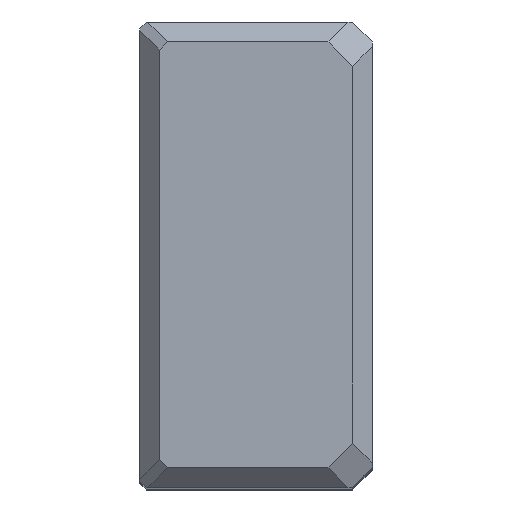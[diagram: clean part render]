
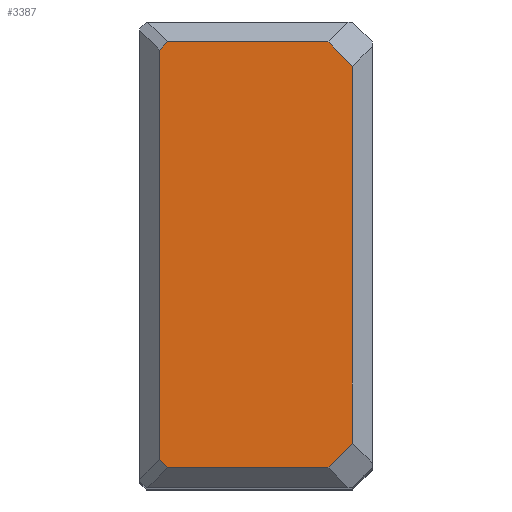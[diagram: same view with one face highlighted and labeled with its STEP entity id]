
A CAD part, top view. The second image highlights one B-rep face of the part: STEP entity #3387.
In plain terms, the highlighted planar face has unit normal (0, 0, 1).
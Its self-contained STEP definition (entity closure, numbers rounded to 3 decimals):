
#95=VERTEX_POINT(' ',#96);
#96=CARTESIAN_POINT('',(-3.,-28.326,0.));
#97=VERTEX_POINT(' ',#98);
#98=CARTESIAN_POINT('',(-6.674,-32.,0.));
#127=VERTEX_POINT(' ',#128);
#128=CARTESIAN_POINT('',(-3.,28.326,0.));
#135=VERTEX_POINT(' ',#136);
#136=CARTESIAN_POINT('',(-6.674,32.,0.));
#173=VERTEX_POINT(' ',#174);
#174=CARTESIAN_POINT('',(-30.775,-32.,0.));
#181=VERTEX_POINT(' ',#182);
#182=CARTESIAN_POINT('',(-32.,-30.775,0.));
#199=VERTEX_POINT(' ',#200);
#200=CARTESIAN_POINT('',(-32.,30.775,0.));
#203=VERTEX_POINT(' ',#204);
#204=CARTESIAN_POINT('',(-30.775,32.,0.));
#648=LINE('',#649,#650);
#649=CARTESIAN_POINT('',(12.663,-12.663,0.));
#650=VECTOR('',#651,1.);
#651=DIRECTION('',(0.707,0.707,0.));
#652=EDGE_CURVE(' ',#95,#97,#648,.F.);
#778=LINE('',#779,#780);
#779=CARTESIAN_POINT('',(-3.,-35.12,0.));
#780=VECTOR('',#781,1.);
#781=DIRECTION('',(0.,1.,0.));
#782=EDGE_CURVE(' ',#95,#127,#778,.T.);
#803=LINE('',#804,#805);
#804=CARTESIAN_POINT('',(12.663,12.663,0.));
#805=VECTOR('',#806,1.);
#806=DIRECTION('',(-0.707,0.707,0.));
#807=EDGE_CURVE(' ',#135,#127,#803,.F.);
#992=LINE('',#993,#994);
#993=CARTESIAN_POINT('',(-35.12,-32.,0.));
#994=VECTOR('',#995,1.);
#995=DIRECTION('',(1.,0.,0.));
#996=EDGE_CURVE(' ',#173,#97,#992,.T.);
#1007=LINE('',#1008,#1009);
#1008=CARTESIAN_POINT('',(-31.388,-31.388,0.));
#1009=VECTOR('',#1010,1.);
#1010=DIRECTION('',(0.707,-0.707,0.));
#1011=EDGE_CURVE(' ',#173,#181,#1007,.F.);
#1099=LINE('',#1100,#1101);
#1100=CARTESIAN_POINT('',(-32.,-35.12,0.));
#1101=VECTOR('',#1102,1.);
#1102=DIRECTION('',(0.,1.,0.));
#1103=EDGE_CURVE(' ',#181,#199,#1099,.T.);
#1104=LINE('',#1105,#1106);
#1105=CARTESIAN_POINT('',(-31.388,31.388,0.));
#1106=VECTOR('',#1107,1.);
#1107=DIRECTION('',(-0.707,-0.707,0.));
#1108=EDGE_CURVE(' ',#199,#203,#1104,.F.);
#1109=LINE('',#1110,#1111);
#1110=CARTESIAN_POINT('',(-35.12,32.,0.));
#1111=VECTOR('',#1112,1.);
#1112=DIRECTION('',(1.,0.,0.));
#1113=EDGE_CURVE(' ',#135,#203,#1109,.F.);
#3372=ORIENTED_EDGE('',*,*,#1108,.F.);
#3373=ORIENTED_EDGE('',*,*,#1103,.F.);
#3374=ORIENTED_EDGE('',*,*,#1011,.F.);
#3375=ORIENTED_EDGE('',*,*,#996,.T.);
#3376=ORIENTED_EDGE('',*,*,#652,.F.);
#3377=ORIENTED_EDGE('',*,*,#782,.T.);
#3378=ORIENTED_EDGE('',*,*,#807,.F.);
#3379=ORIENTED_EDGE('',*,*,#1113,.T.);
#3380=EDGE_LOOP('',(#3372,#3373,#3374,#3375,#3376,#3377,#3378,#3379));
#3381=FACE_OUTER_BOUND('',#3380,.T.);
#3382=PLANE('',#3383);
#3383=AXIS2_PLACEMENT_3D('',#3384,#3385,#3386);
#3384=CARTESIAN_POINT('',(-32.,0.,0.));
#3385=DIRECTION('',(0.,0.,1.));
#3386=DIRECTION('',(1.,0.,0.));
#3387=ADVANCED_FACE('',(#3381),#3382,.T.);
